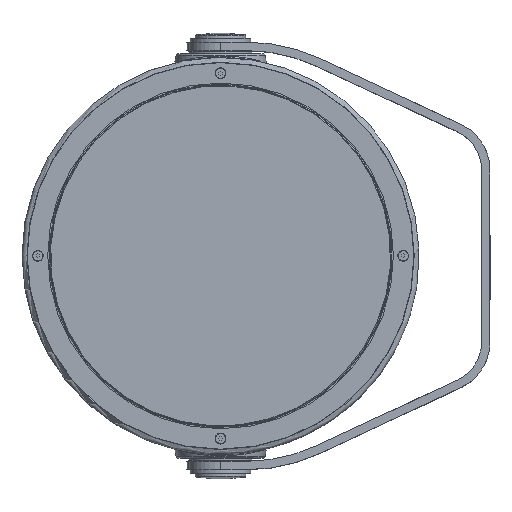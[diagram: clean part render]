
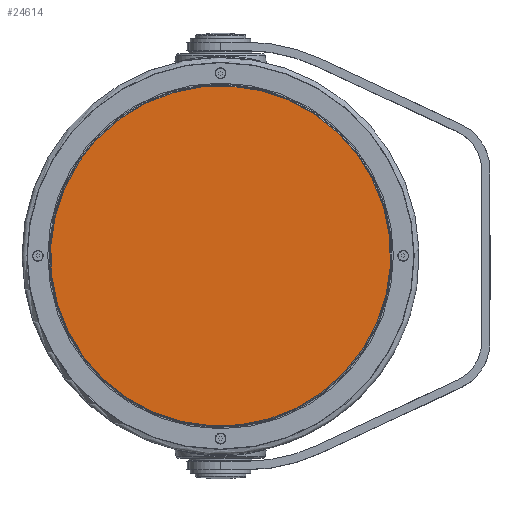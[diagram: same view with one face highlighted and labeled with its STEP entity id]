
A CAD part, top view. The second image highlights one B-rep face of the part: STEP entity #24614.
In plain terms, the highlighted planar face has unit normal (0, 0, 1).
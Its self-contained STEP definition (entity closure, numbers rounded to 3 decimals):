
#2392=CIRCLE('',#26198,101.);
#4068=ORIENTED_EDGE('',*,*,#9388,.T.);
#9388=EDGE_CURVE('',#12115,#12115,#2392,.T.);
#12115=VERTEX_POINT('',#34354);
#15199=EDGE_LOOP('',(#4068));
#16838=FACE_BOUND('',#15199,.T.);
#18291=PLANE('',#26197);
#24614=ADVANCED_FACE('',(#16838),#18291,.F.);
#26197=AXIS2_PLACEMENT_3D('',#34352,#28938,#28939);
#26198=AXIS2_PLACEMENT_3D('',#34353,#28940,#28941);
#28938=DIRECTION('',(0.,0.,-1.));
#28939=DIRECTION('',(0.994,0.113,0.));
#28940=DIRECTION('',(0.,0.,1.));
#28941=DIRECTION('',(0.994,0.113,0.));
#34352=CARTESIAN_POINT('',(-100.847,-11.493,53.499));
#34353=CARTESIAN_POINT('',(0.,0.,53.499));
#34354=CARTESIAN_POINT('',(100.35,11.437,53.499));
